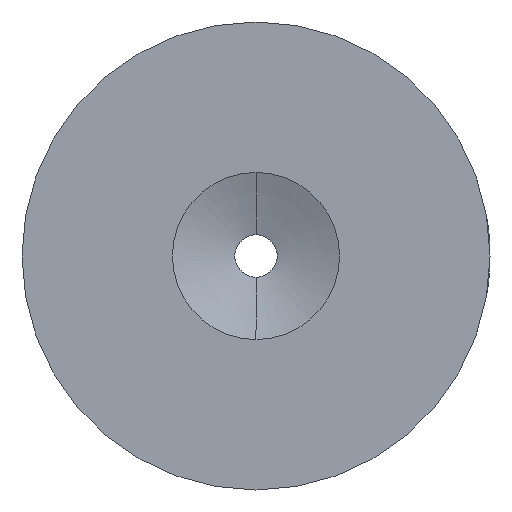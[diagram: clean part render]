
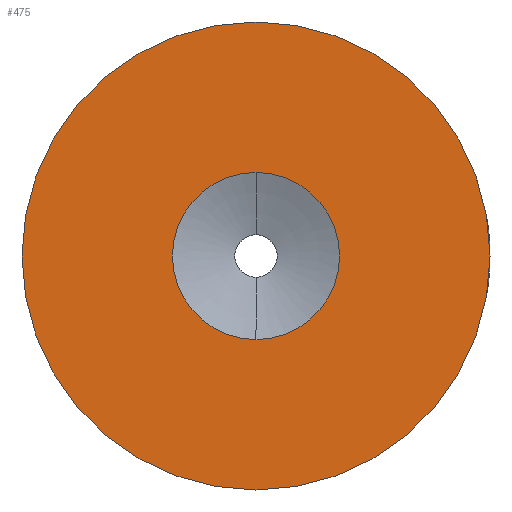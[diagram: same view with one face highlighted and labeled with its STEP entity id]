
A CAD part, left-side view. The second image highlights one B-rep face of the part: STEP entity #475.
In plain terms, the highlighted planar face has unit normal (-1, 0, 0).
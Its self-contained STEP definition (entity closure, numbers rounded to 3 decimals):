
#1 = VERTEX_POINT ( 'NONE', #478 ) ;
#27 = EDGE_CURVE ( 'NONE', #1, #267, #538, .T. ) ;
#33 = DIRECTION ( 'NONE',  ( 0., 0., -1. ) ) ;
#42 = EDGE_LOOP ( 'NONE', ( #247, #391 ) ) ;
#51 = CARTESIAN_POINT ( 'NONE',  ( 0., 0., 0. ) ) ;
#74 = FACE_OUTER_BOUND ( 'NONE', #42, .T. ) ;
#99 = DIRECTION ( 'NONE',  ( 0., 0., 1. ) ) ;
#105 = DIRECTION ( 'NONE',  ( -1., 0., 0. ) ) ;
#128 = DIRECTION ( 'NONE',  ( -1., 0., 0. ) ) ;
#155 = EDGE_CURVE ( 'NONE', #400, #402, #185, .T. ) ;
#159 = ORIENTED_EDGE ( 'NONE', *, *, #434, .F. ) ;
#185 = CIRCLE ( 'NONE', #385, 14. ) ;
#206 = FACE_BOUND ( 'NONE', #270, .T. ) ;
#209 = EDGE_CURVE ( 'NONE', #402, #400, #241, .T. ) ;
#214 = CIRCLE ( 'NONE', #511, 5. ) ;
#239 = CARTESIAN_POINT ( 'NONE',  ( 0., 0., -5. ) ) ;
#241 = CIRCLE ( 'NONE', #356, 14. ) ;
#245 = PLANE ( 'NONE',  #312 ) ;
#247 = ORIENTED_EDGE ( 'NONE', *, *, #209, .T. ) ;
#267 = VERTEX_POINT ( 'NONE', #239 ) ;
#270 = EDGE_LOOP ( 'NONE', ( #290, #159 ) ) ;
#284 = DIRECTION ( 'NONE',  ( 1., 0., 0. ) ) ;
#290 = ORIENTED_EDGE ( 'NONE', *, *, #27, .F. ) ;
#312 = AXIS2_PLACEMENT_3D ( 'NONE', #403, #284, #33 ) ;
#354 = CARTESIAN_POINT ( 'NONE',  ( 0., 0., -14. ) ) ;
#356 = AXIS2_PLACEMENT_3D ( 'NONE', #362, #105, #406 ) ;
#358 = DIRECTION ( 'NONE',  ( -1., 0., 0. ) ) ;
#360 = DIRECTION ( 'NONE',  ( 0., 0., 1. ) ) ;
#362 = CARTESIAN_POINT ( 'NONE',  ( 0., 0., 0. ) ) ;
#366 = DIRECTION ( 'NONE',  ( -1., 0., 0. ) ) ;
#378 = CARTESIAN_POINT ( 'NONE',  ( 0., 0., 0. ) ) ;
#385 = AXIS2_PLACEMENT_3D ( 'NONE', #51, #358, #99 ) ;
#386 = CARTESIAN_POINT ( 'NONE',  ( 0., 0., 0. ) ) ;
#391 = ORIENTED_EDGE ( 'NONE', *, *, #155, .T. ) ;
#400 = VERTEX_POINT ( 'NONE', #354 ) ;
#402 = VERTEX_POINT ( 'NONE', #549 ) ;
#403 = CARTESIAN_POINT ( 'NONE',  ( 0., 1.25, 0. ) ) ;
#406 = DIRECTION ( 'NONE',  ( 0., 0., 1. ) ) ;
#428 = DIRECTION ( 'NONE',  ( 0., 0., 1. ) ) ;
#434 = EDGE_CURVE ( 'NONE', #267, #1, #214, .T. ) ;
#475 = ADVANCED_FACE ( 'NONE', ( #206, #74 ), #245, .F. ) ;
#478 = CARTESIAN_POINT ( 'NONE',  ( 0., 0., 5. ) ) ;
#511 = AXIS2_PLACEMENT_3D ( 'NONE', #378, #366, #360 ) ;
#538 = CIRCLE ( 'NONE', #544, 5. ) ;
#544 = AXIS2_PLACEMENT_3D ( 'NONE', #386, #128, #428 ) ;
#549 = CARTESIAN_POINT ( 'NONE',  ( 0., 0., 14. ) ) ;
